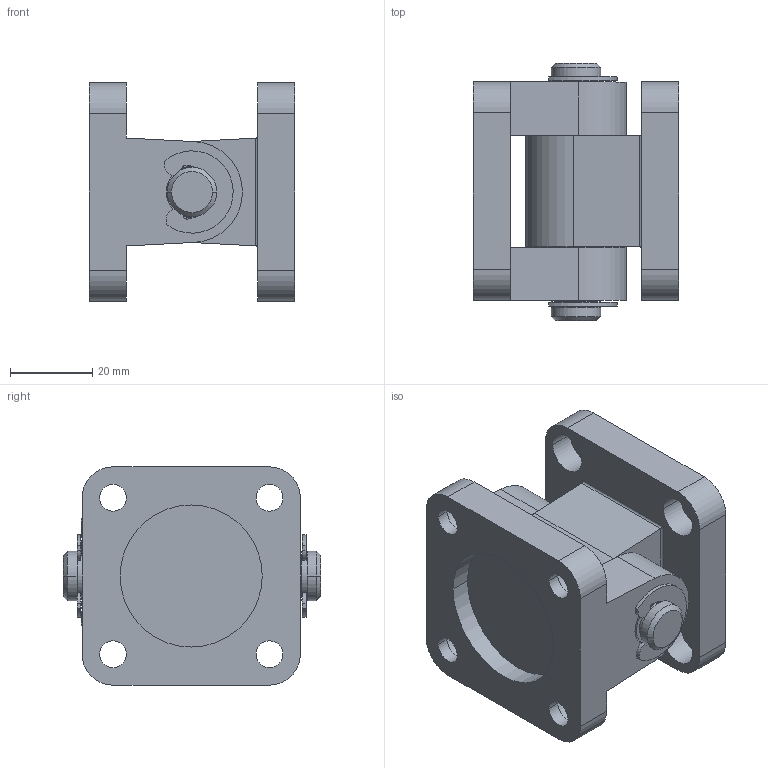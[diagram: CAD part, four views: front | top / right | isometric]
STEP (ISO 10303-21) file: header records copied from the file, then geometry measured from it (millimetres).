
FILE_DESCRIPTION(('CATIA V5 STEP Exchange'),'2;1');
FILE_NAME('D:\stp file for catalog\BAST-CAB\CAB 40.stp','2018-06-13T06:12:16+00:00',('none'),('none'),'CATIA Version 5-6 Release 2016','CATIA V5 STEP AP203','none');
FILE_SCHEMA(('CONFIG_CONTROL_DESIGN'));
Length unit declared in the file: millimetre
Products named in the file (1): PNC-CAB 40
Assembly tree (6 placements, depth 2):
  PNC-CAB 40
    #57
    #14266
    #15547
    #15570
    #16039
    #16788
Bounding box: 50 x 62.5 x 53 mm (x, y, z)
Volume: 71820 mm3; surface area: 28093.5 mm2
Topology: 5 solids, 5 shells, 583 faces, 1589 edges, 1058 vertices
Faces by surface type: plane 484, cylinder 95, cone 4
Entity records: 17514 total; most frequent: ORIENTED_EDGE 3178, CARTESIAN_POINT 3129, DIRECTION 2481, EDGE_CURVE 1589, VECTOR 1395, LINE 1395, VERTEX_POINT 1058, EDGE_LOOP 647
